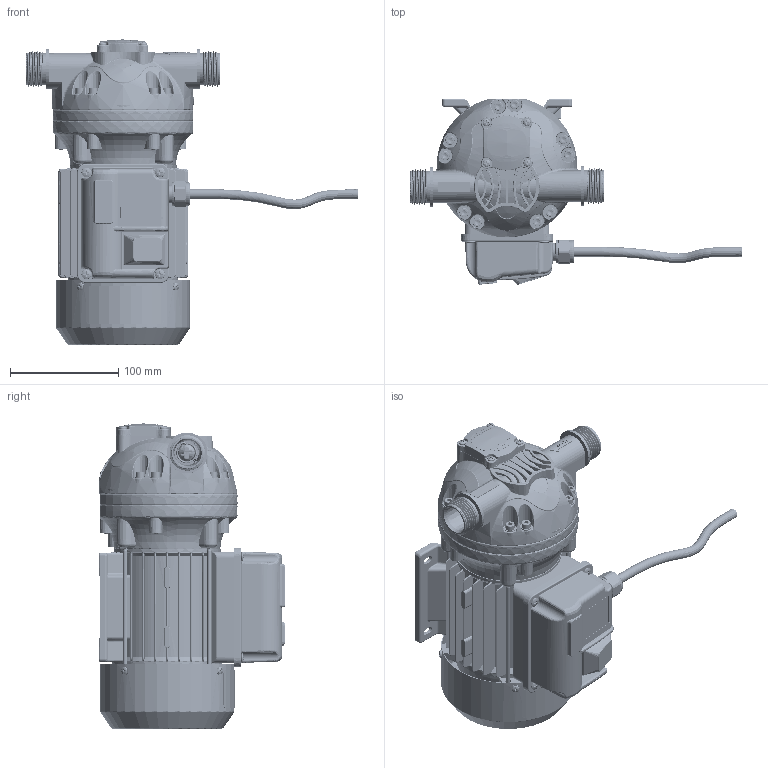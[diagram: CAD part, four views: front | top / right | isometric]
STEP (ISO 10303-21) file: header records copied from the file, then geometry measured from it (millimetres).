
FILE_DESCRIPTION(/* description */ (''),/* implementation_level */ '2;1');
FILE_NAME(/* name */ '180000-01.step',/* time_stamp */ '2025-07-25T12:04:40-05:00',/* author */ (''),/* organization */ (''),/* preprocessor_version */ 'ST-DEVELOPER v20.1',/* originating_system */ 'Autodesk Translation Framework v14.10.0.0',/* authorisation */ '');
FILE_SCHEMA (('AUTOMOTIVE_DESIGN { 1 0 10303 214 3 1 1 }'));
Length unit declared in the file: millimetre
Products named in the file (12): 180000-01; 905002-01; 180100-01; 180901-01; 180902-02; 922144-02; 922119-01; 905500-02; 180_PnBD01 Worm Drive Clamp; 180_PnBD01_JIETOULUOMU; 180_PnBD01_JIETOU; 180_PnBD01 Barb o-ring
Assembly tree (17 placements, depth 2):
  180000-01
    905002-01
    180100-01
    180901-01
    180902-02
    922144-02
    922119-01
    180_PnBD01_JIETOULUOMU  x2
    180_PnBD01_JIETOU  x2
    180_PnBD01 Barb o-ring  x2
    180_PnBD01 Worm Drive Clamp  x4
    905500-02
Bounding box: 306.67 x 171.67 x 281.9 mm (x, y, z)
Volume: 1034843.7 mm3; surface area: 727908 mm2
Topology: 90 solids, 90 shells, 11625 faces, 29896 edges, 18441 vertices
Faces by surface type: plane 3239, bspline 2977, cylinder 2730, torus 1328, cone 1109, sphere 242
Full cylindrical faces by diameter (mm): 1.5 x5, 1.85 x4, 2 x1, 2.024 x5, 2.5 x3, 2.7 x56, 2.8 x13, 2.9 x4, 3 x11, 3.2 x5, 3.3 x1, 3.5 x42, 3.9 x111, 4 x12, 4.1 x5, 4.2 x7, 4.3 x4, 4.5 x15, 4.9 x360, 5 x8, 5.2 x10, 5.6 x5, 6 x10, 6.8 x7, 7 x6, 7.2 x1, 7.5 x3, 7.7 x5, 8 x10, 8.1 x1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
Entity records: 783815 total; most frequent: CARTESIAN_POINT 510835, ORIENTED_EDGE 59256, DIRECTION 48502, EDGE_CURVE 29628, AXIS2_PLACEMENT_3D 19198, VERTEX_POINT 18440, EDGE_LOOP 12330, STYLED_ITEM 11686
